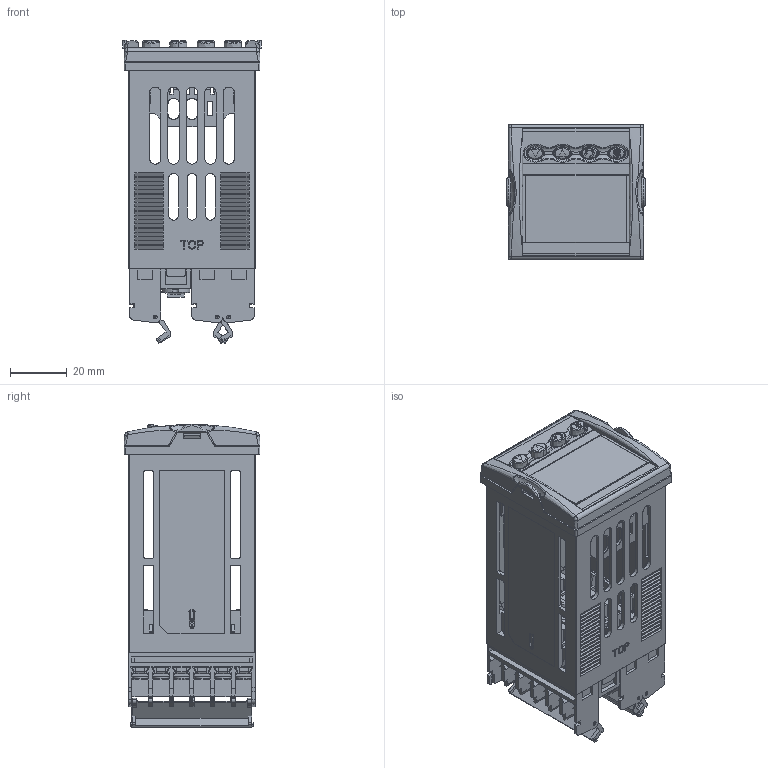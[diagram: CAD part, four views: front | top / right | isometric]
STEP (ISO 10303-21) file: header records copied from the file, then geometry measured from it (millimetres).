
FILE_DESCRIPTION((''),'2;1');
FILE_NAME('3216_IGES3','2012-01-10T',('chrisloe'),(''),'PRO/ENGINEER BY PARAMETRIC TECHNOLOGY CORPORATION, 2010180','PRO/ENGINEER BY PARAMETRIC TECHNOLOGY CORPORATION, 2010180','');
FILE_SCHEMA(('CONFIG_CONTROL_DESIGN'));
Products named in the file (1): 3216_IGES3
Bounding box: 49 x 48 x 107.13 mm (x, y, z)
Volume: 51305.7 mm3; surface area: 83402.6 mm2
Topology: 1 solids, 53 shells, 7793 faces, 21356 edges, 13644 vertices
Faces by surface type: plane 6244, cylinder 1197, cone 139, bspline 94, torus 63, extrusion 54, sphere 2
Entity records: 257145 total; most frequent: CARTESIAN_POINT 62645, ORIENTED_EDGE 42588, DIRECTION 36881, EDGE_CURVE 21340, VECTOR 16747, LINE 16693, VERTEX_POINT 13644, AXIS2_PLACEMENT_3D 10067
